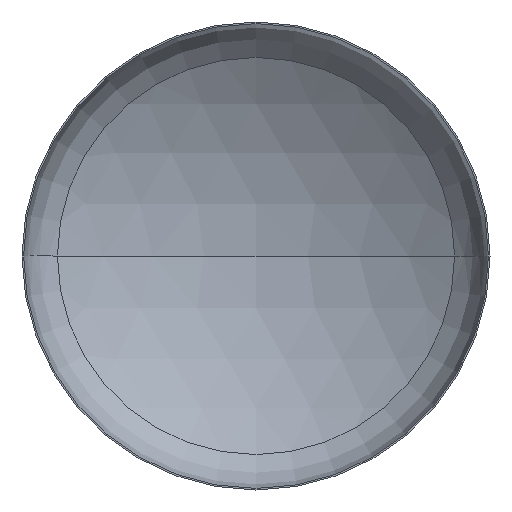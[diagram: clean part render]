
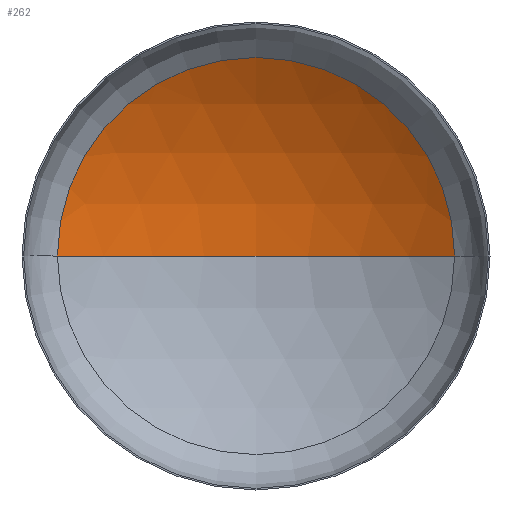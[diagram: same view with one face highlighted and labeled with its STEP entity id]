
A CAD part, front view. The second image highlights one B-rep face of the part: STEP entity #262.
In plain terms, the highlighted spherical face has radius 960 mm.
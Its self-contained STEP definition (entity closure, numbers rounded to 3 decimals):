
#1 = DIRECTION ( 'NONE',  ( 0., 0., 1. ) ) ;
#14 = CIRCLE ( 'NONE', #25, 509.11 ) ;
#22 = ORIENTED_EDGE ( 'NONE', *, *, #329, .T. ) ;
#23 = AXIS2_PLACEMENT_3D ( 'NONE', #215, #1, #240 ) ;
#25 = AXIS2_PLACEMENT_3D ( 'NONE', #50, #268, #101 ) ;
#26 = AXIS2_PLACEMENT_3D ( 'NONE', #327, #154, #359 ) ;
#28 = ORIENTED_EDGE ( 'NONE', *, *, #326, .T. ) ;
#33 = ORIENTED_EDGE ( 'NONE', *, *, #339, .F. ) ;
#34 = AXIS2_PLACEMENT_3D ( 'NONE', #95, #43, #378 ) ;
#40 = SPHERICAL_SURFACE ( 'NONE', #34, 960. ) ;
#42 = EDGE_LOOP ( 'NONE', ( #33, #22, #28 ) ) ;
#43 = DIRECTION ( 'NONE',  ( 0., 0., -1. ) ) ;
#50 = CARTESIAN_POINT ( 'NONE',  ( 0., 176.842, 0. ) ) ;
#95 = CARTESIAN_POINT ( 'NONE',  ( 0., -637.042, 0. ) ) ;
#101 = DIRECTION ( 'NONE',  ( 1., 0., 0. ) ) ;
#122 = CIRCLE ( 'NONE', #23, 960. ) ;
#127 = VERTEX_POINT ( 'NONE', #143 ) ;
#138 = FACE_OUTER_BOUND ( 'NONE', #42, .T. ) ;
#143 = CARTESIAN_POINT ( 'NONE',  ( 0., 322.958, 0. ) ) ;
#154 = DIRECTION ( 'NONE',  ( 0., 0., -1. ) ) ;
#202 = CIRCLE ( 'NONE', #26, 960. ) ;
#205 = VERTEX_POINT ( 'NONE', #405 ) ;
#215 = CARTESIAN_POINT ( 'NONE',  ( 0., -637.042, 0. ) ) ;
#240 = DIRECTION ( 'NONE',  ( 1., 0., 0. ) ) ;
#241 = CARTESIAN_POINT ( 'NONE',  ( -509.11, 176.842, 0. ) ) ;
#262 = ADVANCED_FACE ( 'NONE', ( #138 ), #40, .F. ) ;
#268 = DIRECTION ( 'NONE',  ( 0., -1., 0. ) ) ;
#326 = EDGE_CURVE ( 'NONE', #205, #365, #14, .T. ) ;
#327 = CARTESIAN_POINT ( 'NONE',  ( 0., -637.042, 0. ) ) ;
#329 = EDGE_CURVE ( 'NONE', #127, #205, #202, .T. ) ;
#339 = EDGE_CURVE ( 'NONE', #127, #365, #122, .T. ) ;
#359 = DIRECTION ( 'NONE',  ( -1., 0., 0. ) ) ;
#365 = VERTEX_POINT ( 'NONE', #241 ) ;
#378 = DIRECTION ( 'NONE',  ( -1., 0., 0. ) ) ;
#405 = CARTESIAN_POINT ( 'NONE',  ( 509.11, 176.842, 0. ) ) ;
